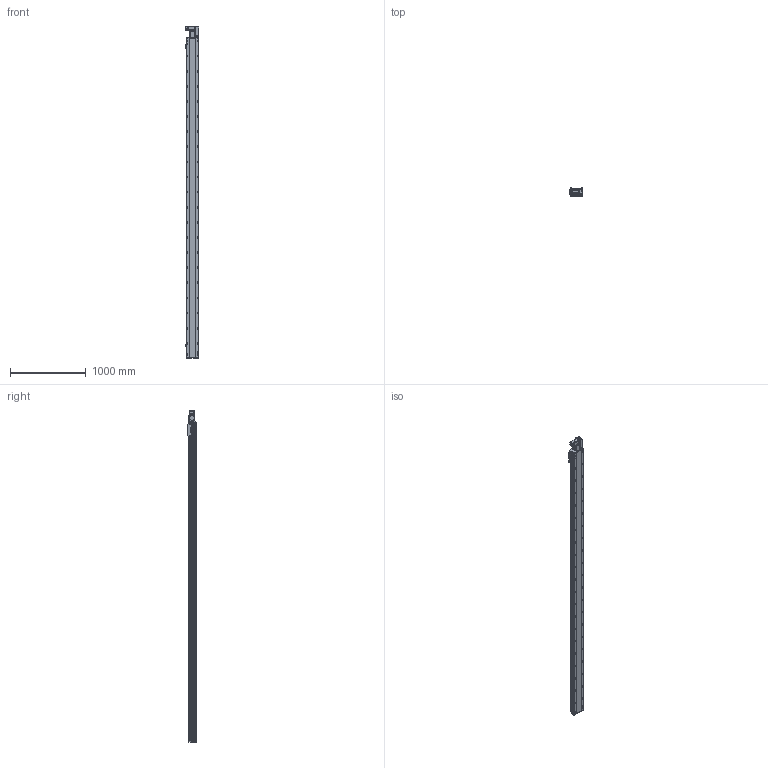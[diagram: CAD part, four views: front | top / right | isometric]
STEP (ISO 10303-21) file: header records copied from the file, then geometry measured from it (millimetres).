
FILE_DESCRIPTION (( 'STEP AP214' ), '1' );
FILE_NAME ('RTB17S-XX-3950-R-M40-C4.STEP', '2025-12-11T08:06:01', ( '' ), ( '' ), 'SwSTEP 2.0', 'SolidWorks 2018', '' );
FILE_SCHEMA (( 'AUTOMOTIVE_DESIGN' ));
Length unit declared in the file: millimetre
Products named in the file (14): RTB17S-XX-3950-R-M40-C4; RTB17S-L-007奻裔^RTB17S-XX-XX-R-M40-C4; RTB17S-R-々湍釱蚾饜-400W^RTB17S-XX-XX-R-M40-C4; RTH13-BL-012覜茼え俋离^RTB17S-XX-XX-R-M40-C4; RTB14-L-008-M20--萇儂啣^RTB17S-R-々湍釱蚾饜-400W_RTB17S-XX-XX-R-M40-C4; RTB17S-L-004佪裝蹟譫蟀諉釱^RTB17S-XX-XX-R-M40-C4; RTB14-L-017P^RTB17S-R-々湍釱蚾饜-400W_RTB17S-XX-XX-R-M40-C4; RTB17S-L-014-T20--々湍釱^RTB17S-R-々湍釱蚾饜-400W_RTB17S-XX-XX-R-M40-C4; OMRON EE-SX672 传感器^RTB17S-XX-XX-R-M40-C4; RTB14-L-005P--轴承塑胶压盖^RTB17S-R-皮带座装配-400W_RTB17S-XX-XX-R-M40-C4; RTB17S-L-001耜醱啣^RTB17S-XX-XX-R-M40-C4; 400W侜督萇儂^RTB17S-XX-XX-R-M40-C4; RTB17-R-011菁釱^RTB17S-XX-XX-R-M40-C4; RTB14-L-018P^RTB17S-R-々湍釱蚾饜-400W_RTB17S-XX-XX-R-M40-C4
Assembly tree (16 placements, depth 3):
  RTB17S-XX-3950-R-M40-C4
    RTB17-R-011菁釱^RTB17S-XX-XX-R-M40-C4
    RTB17S-L-007奻裔^RTB17S-XX-XX-R-M40-C4
    OMRON EE-SX672 传感器^RTB17S-XX-XX-R-M40-C4  x3
    RTB17S-L-001耜醱啣^RTB17S-XX-XX-R-M40-C4
    400W侜督萇儂^RTB17S-XX-XX-R-M40-C4
    RTB17S-L-004佪裝蹟譫蟀諉釱^RTB17S-XX-XX-R-M40-C4
    RTH13-BL-012覜茼え俋离^RTB17S-XX-XX-R-M40-C4
    RTB17S-R-々湍釱蚾饜-400W^RTB17S-XX-XX-R-M40-C4
      RTB17S-L-014-T20--々湍釱^RTB17S-R-々湍釱蚾饜-400W_RTB17S-XX-XX-R-M40-C4
      RTB14-L-005P--轴承塑胶压盖^RTB17S-R-皮带座装配-400W_RTB17S-XX-XX-R-M40-C4
      RTB14-L-008-M20--萇儂啣^RTB17S-R-々湍釱蚾饜-400W_RTB17S-XX-XX-R-M40-C4
      RTB14-L-017P^RTB17S-R-々湍釱蚾饜-400W_RTB17S-XX-XX-R-M40-C4  x2
      RTB14-L-018P^RTB17S-R-々湍釱蚾饜-400W_RTB17S-XX-XX-R-M40-C4
Bounding box: 183.5 x 108 x 4391 mm (x, y, z)
Volume: 36431333.9 mm3; surface area: 4121474.4 mm2
Topology: 15 solids, 15 shells, 2445 faces, 6897 edges, 4509 vertices
Faces by surface type: plane 1098, cylinder 899, bspline 301, cone 139, torus 8
Entity records: 74153 total; most frequent: CARTESIAN_POINT 21302, ORIENTED_EDGE 10638, DIRECTION 9746, EDGE_CURVE 5319, VERTEX_POINT 3497, AXIS2_PLACEMENT_3D 3427, LINE 2892, VECTOR 2892
